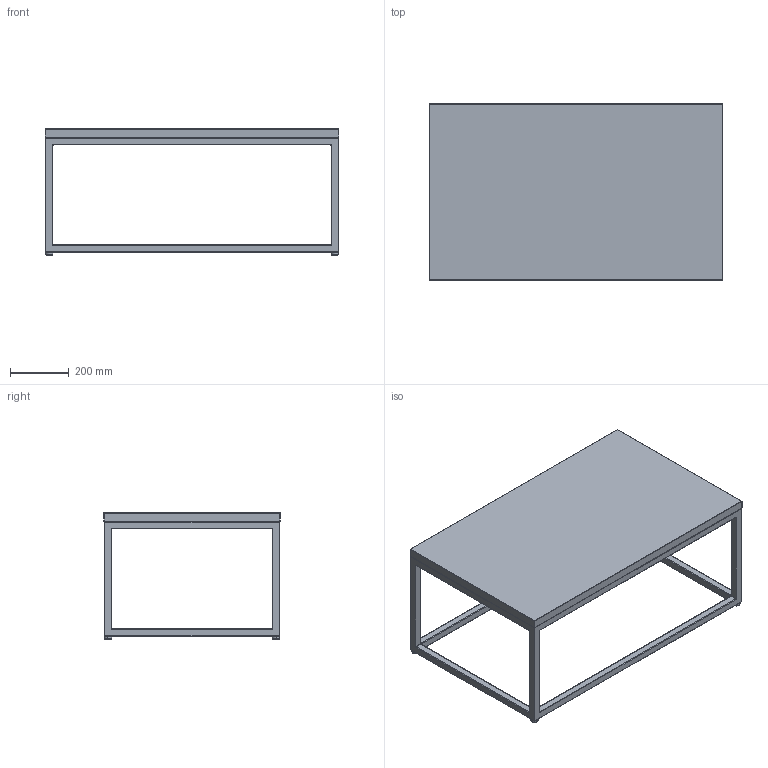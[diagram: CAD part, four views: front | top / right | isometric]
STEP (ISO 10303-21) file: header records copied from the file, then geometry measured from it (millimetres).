
FILE_DESCRIPTION(/* description */ (''),/* implementation_level */ '2;1');
FILE_NAME(/* name */ 'K7LZFN~N',/* time_stamp */ '2020-06-19T17:30:47+09:00',/* author */ (''),/* organization */ (''),/* preprocessor_version */ 'ST-DEVELOPER v15',/* originating_system */ '',/* authorisation */ '');
FILE_SCHEMA (('AUTOMOTIVE_DESIGN'));
Length unit declared in the file: millimetre
Products named in the file (1): Document
Bounding box: 1000 x 600 x 430 mm (x, y, z)
Volume: 18015937.2 mm3; surface area: 2027349.7 mm2
Topology: 5 solids, 6 shells, 184 faces, 400 edges, 216 vertices
Faces by surface type: bspline 140, plane 44
Entity records: 5588 total; most frequent: CARTESIAN_POINT 3311, ORIENTED_EDGE 752, EDGE_CURVE 400, VERTEX_POINT 216, EDGE_LOOP 190, ADVANCED_FACE 184, FACE_OUTER_BOUND 184, B_SPLINE_CURVE_WITH_KNOTS 168
